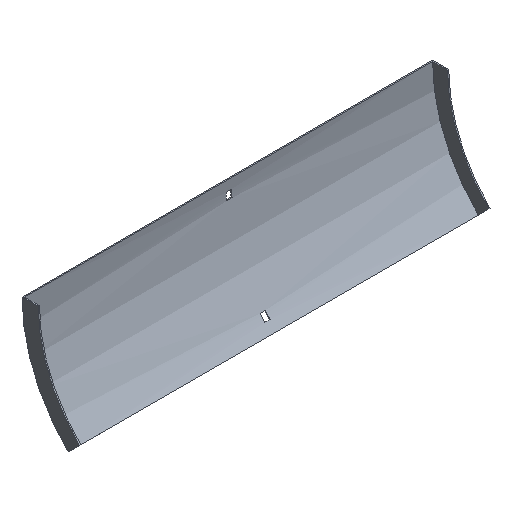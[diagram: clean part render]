
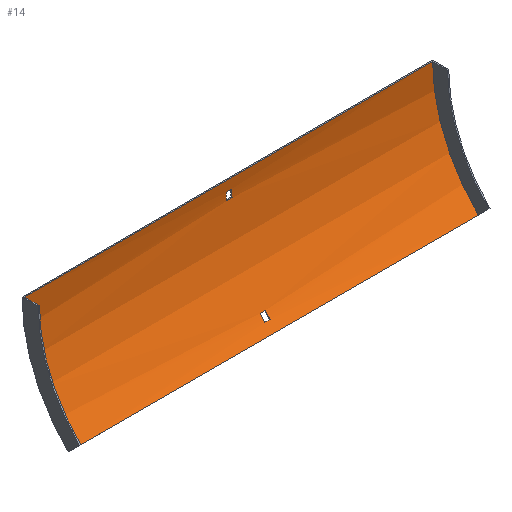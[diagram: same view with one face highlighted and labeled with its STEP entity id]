
A CAD part, isometric view. The second image highlights one B-rep face of the part: STEP entity #14.
In plain terms, the highlighted cylindrical face has radius 192.5 mm (diameter 385 mm), a partial arc.
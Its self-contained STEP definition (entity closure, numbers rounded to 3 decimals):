
#1 = VERTEX_POINT ( 'NONE', #543 ) ;
#4 = VERTEX_POINT ( 'NONE', #119 ) ;
#5 = DIRECTION ( 'NONE',  ( 0., 0., -1. ) ) ;
#8 = DIRECTION ( 'NONE',  ( -1., 0., 0. ) ) ;
#10 = CARTESIAN_POINT ( 'NONE',  ( 3.25, -43.845, -120.456 ) ) ;
#12 = DIRECTION ( 'NONE',  ( 1., 0., 0. ) ) ;
#13 = CARTESIAN_POINT ( 'NONE',  ( 252., -57.882, -136.118 ) ) ;
#14 = ADVANCED_FACE ( 'NONE', ( #216, #315, #50 ), #137, .F. ) ;
#20 = DIRECTION ( 'NONE',  ( -1., 0., 0. ) ) ;
#21 = DIRECTION ( 'NONE',  ( 0., 0., -1. ) ) ;
#27 = AXIS2_PLACEMENT_3D ( 'NONE', #480, #20, #346 ) ;
#28 = VERTEX_POINT ( 'NONE', #325 ) ;
#29 = VECTOR ( 'NONE', #495, 1000. ) ;
#31 = EDGE_CURVE ( 'NONE', #509, #28, #128, .T. ) ;
#50 = FACE_BOUND ( 'NONE', #134, .T. ) ;
#56 = VECTOR ( 'NONE', #365, 1000. ) ;
#60 = CARTESIAN_POINT ( 'NONE',  ( 252., -1.5, 0. ) ) ;
#75 = VECTOR ( 'NONE', #428, 1000. ) ;
#78 = CARTESIAN_POINT ( 'NONE',  ( 253.5, -1.874, -12. ) ) ;
#89 = ORIENTED_EDGE ( 'NONE', *, *, #421, .T. ) ;
#95 = CARTESIAN_POINT ( 'NONE',  ( 3.25, -1.874, -12. ) ) ;
#96 = CARTESIAN_POINT ( 'NONE',  ( 253.5, -194., 0. ) ) ;
#105 = DIRECTION ( 'NONE',  ( 1., 0., 0. ) ) ;
#114 = DIRECTION ( 'NONE',  ( 1., 0., 0. ) ) ;
#115 = EDGE_CURVE ( 'NONE', #506, #591, #415, .T. ) ;
#119 = CARTESIAN_POINT ( 'NONE',  ( 252., -1.5, 0. ) ) ;
#128 = CIRCLE ( 'NONE', #350, 192.5 ) ;
#134 = EDGE_LOOP ( 'NONE', ( #592, #320, #519, #571 ) ) ;
#137 = CYLINDRICAL_SURFACE ( 'NONE', #461, 192.5 ) ;
#153 = CARTESIAN_POINT ( 'NONE',  ( 252., -57.882, -136.118 ) ) ;
#156 = LINE ( 'NONE', #348, #29 ) ;
#158 = VECTOR ( 'NONE', #349, 1000. ) ;
#170 = VECTOR ( 'NONE', #340, 1000. ) ;
#171 = VERTEX_POINT ( 'NONE', #10 ) ;
#172 = VERTEX_POINT ( 'NONE', #287 ) ;
#173 = CARTESIAN_POINT ( 'NONE',  ( 253.5, -2.649, -21. ) ) ;
#177 = AXIS2_PLACEMENT_3D ( 'NONE', #204, #114, #21 ) ;
#182 = ORIENTED_EDGE ( 'NONE', *, *, #198, .F. ) ;
#196 = VERTEX_POINT ( 'NONE', #153 ) ;
#198 = EDGE_CURVE ( 'NONE', #1, #506, #444, .T. ) ;
#201 = AXIS2_PLACEMENT_3D ( 'NONE', #425, #12, #384 ) ;
#203 = CARTESIAN_POINT ( 'NONE',  ( -3.25, -49.661, -127.368 ) ) ;
#204 = CARTESIAN_POINT ( 'NONE',  ( 3.25, -194., 0. ) ) ;
#208 = VERTEX_POINT ( 'NONE', #203 ) ;
#212 = CIRCLE ( 'NONE', #177, 192.5 ) ;
#216 = FACE_BOUND ( 'NONE', #362, .T. ) ;
#219 = EDGE_CURVE ( 'NONE', #196, #509, #438, .T. ) ;
#233 = ORIENTED_EDGE ( 'NONE', *, *, #549, .F. ) ;
#234 = CARTESIAN_POINT ( 'NONE',  ( -252., -57.882, -136.118 ) ) ;
#251 = DIRECTION ( 'NONE',  ( -1., 0., 0. ) ) ;
#258 = ORIENTED_EDGE ( 'NONE', *, *, #290, .F. ) ;
#259 = CARTESIAN_POINT ( 'NONE',  ( -3.25, -43.845, -120.456 ) ) ;
#267 = AXIS2_PLACEMENT_3D ( 'NONE', #578, #105, #5 ) ;
#272 = DIRECTION ( 'NONE',  ( 0., 0., 1. ) ) ;
#287 = CARTESIAN_POINT ( 'NONE',  ( 3.25, -49.661, -127.368 ) ) ;
#290 = EDGE_CURVE ( 'NONE', #486, #1, #309, .T. ) ;
#291 = VECTOR ( 'NONE', #251, 1000. ) ;
#309 = LINE ( 'NONE', #78, #158 ) ;
#315 = FACE_OUTER_BOUND ( 'NONE', #551, .T. ) ;
#317 = ORIENTED_EDGE ( 'NONE', *, *, #378, .T. ) ;
#320 = ORIENTED_EDGE ( 'NONE', *, *, #477, .T. ) ;
#325 = CARTESIAN_POINT ( 'NONE',  ( -252., -1.5, 0. ) ) ;
#340 = DIRECTION ( 'NONE',  ( -1., 0., 0. ) ) ;
#346 = DIRECTION ( 'NONE',  ( 0., 0., 1. ) ) ;
#348 = CARTESIAN_POINT ( 'NONE',  ( 253.5, -43.845, -120.456 ) ) ;
#349 = DIRECTION ( 'NONE',  ( -1., 0., 0. ) ) ;
#350 = AXIS2_PLACEMENT_3D ( 'NONE', #520, #427, #272 ) ;
#352 = VERTEX_POINT ( 'NONE', #259 ) ;
#362 = EDGE_LOOP ( 'NONE', ( #182, #258, #233, #554 ) ) ;
#365 = DIRECTION ( 'NONE',  ( 1., 0., 0. ) ) ;
#378 = EDGE_CURVE ( 'NONE', #4, #28, #379, .T. ) ;
#379 = LINE ( 'NONE', #60, #75 ) ;
#384 = DIRECTION ( 'NONE',  ( 0., 0., 1. ) ) ;
#397 = CARTESIAN_POINT ( 'NONE',  ( 3.25, -2.649, -21. ) ) ;
#413 = ORIENTED_EDGE ( 'NONE', *, *, #219, .F. ) ;
#415 = LINE ( 'NONE', #173, #56 ) ;
#421 = EDGE_CURVE ( 'NONE', #196, #4, #446, .T. ) ;
#425 = CARTESIAN_POINT ( 'NONE',  ( 252., -194., 0. ) ) ;
#427 = DIRECTION ( 'NONE',  ( 1., 0., 0. ) ) ;
#428 = DIRECTION ( 'NONE',  ( -1., 0., 0. ) ) ;
#430 = EDGE_CURVE ( 'NONE', #172, #208, #482, .T. ) ;
#434 = CIRCLE ( 'NONE', #598, 192.5 ) ;
#438 = LINE ( 'NONE', #13, #291 ) ;
#443 = EDGE_CURVE ( 'NONE', #171, #172, #434, .T. ) ;
#444 = CIRCLE ( 'NONE', #27, 192.5 ) ;
#446 = CIRCLE ( 'NONE', #201, 192.5 ) ;
#461 = AXIS2_PLACEMENT_3D ( 'NONE', #96, #8, #603 ) ;
#462 = ORIENTED_EDGE ( 'NONE', *, *, #31, .F. ) ;
#472 = CIRCLE ( 'NONE', #267, 192.5 ) ;
#476 = DIRECTION ( 'NONE',  ( -1., 0., 0. ) ) ;
#477 = EDGE_CURVE ( 'NONE', #208, #352, #472, .T. ) ;
#479 = CARTESIAN_POINT ( 'NONE',  ( 3.25, -194., 0. ) ) ;
#480 = CARTESIAN_POINT ( 'NONE',  ( -3.25, -194., 0. ) ) ;
#482 = LINE ( 'NONE', #523, #170 ) ;
#486 = VERTEX_POINT ( 'NONE', #95 ) ;
#487 = CARTESIAN_POINT ( 'NONE',  ( -3.25, -2.649, -21. ) ) ;
#495 = DIRECTION ( 'NONE',  ( 1., 0., 0. ) ) ;
#506 = VERTEX_POINT ( 'NONE', #487 ) ;
#509 = VERTEX_POINT ( 'NONE', #234 ) ;
#519 = ORIENTED_EDGE ( 'NONE', *, *, #595, .T. ) ;
#520 = CARTESIAN_POINT ( 'NONE',  ( -252., -194., 0. ) ) ;
#523 = CARTESIAN_POINT ( 'NONE',  ( 253.5, -49.661, -127.368 ) ) ;
#543 = CARTESIAN_POINT ( 'NONE',  ( -3.25, -1.874, -12. ) ) ;
#549 = EDGE_CURVE ( 'NONE', #591, #486, #212, .T. ) ;
#551 = EDGE_LOOP ( 'NONE', ( #462, #413, #89, #317 ) ) ;
#554 = ORIENTED_EDGE ( 'NONE', *, *, #115, .F. ) ;
#571 = ORIENTED_EDGE ( 'NONE', *, *, #443, .T. ) ;
#573 = DIRECTION ( 'NONE',  ( 0., 0., 1. ) ) ;
#578 = CARTESIAN_POINT ( 'NONE',  ( -3.25, -194., 0. ) ) ;
#591 = VERTEX_POINT ( 'NONE', #397 ) ;
#592 = ORIENTED_EDGE ( 'NONE', *, *, #430, .T. ) ;
#595 = EDGE_CURVE ( 'NONE', #352, #171, #156, .T. ) ;
#598 = AXIS2_PLACEMENT_3D ( 'NONE', #479, #476, #573 ) ;
#603 = DIRECTION ( 'NONE',  ( 0., 0., 1. ) ) ;
